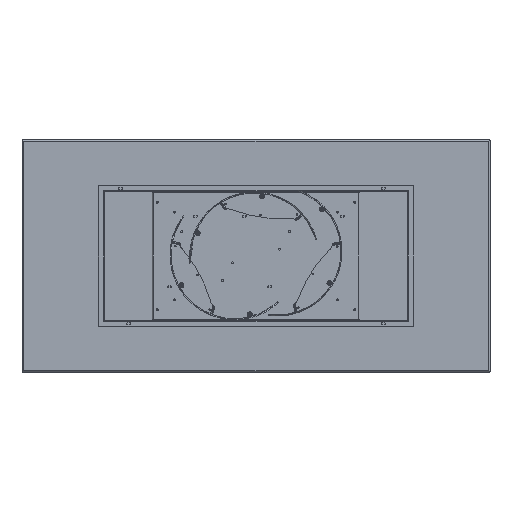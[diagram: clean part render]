
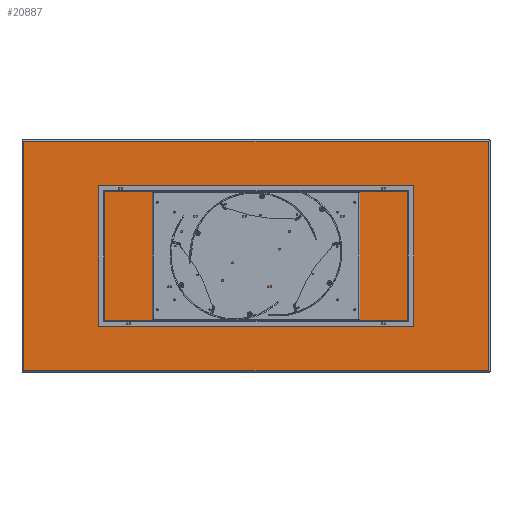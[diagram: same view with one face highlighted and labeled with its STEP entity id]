
A CAD part, front view. The second image highlights one B-rep face of the part: STEP entity #20887.
In plain terms, the highlighted planar face has unit normal (0, -1, 0).
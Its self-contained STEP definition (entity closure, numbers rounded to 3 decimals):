
#139 = VECTOR ( 'NONE', #18762, 1000. ) ;
#211 = CARTESIAN_POINT ( 'NONE',  ( -1187., 0., 0. ) ) ;
#350 = EDGE_CURVE ( 'NONE', #19318, #16008, #3215, .T. ) ;
#355 = EDGE_CURVE ( 'NONE', #6774, #21780, #11933, .T. ) ;
#1000 = LINE ( 'NONE', #2869, #1550 ) ;
#1181 = CARTESIAN_POINT ( 'NONE',  ( -1187., 0., 587. ) ) ;
#1550 = VECTOR ( 'NONE', #11261, 1000. ) ;
#1814 = ORIENTED_EDGE ( 'NONE', *, *, #350, .T. ) ;
#2575 = EDGE_LOOP ( 'NONE', ( #6540, #20786, #9720, #1814 ) ) ;
#2717 = CARTESIAN_POINT ( 'NONE',  ( 1187., 0., -587. ) ) ;
#2869 = CARTESIAN_POINT ( 'NONE',  ( 1187., 0., 0. ) ) ;
#3215 = LINE ( 'NONE', #10170, #6325 ) ;
#4744 = PLANE ( 'NONE',  #6608 ) ;
#6325 = VECTOR ( 'NONE', #15247, 1000. ) ;
#6384 = CARTESIAN_POINT ( 'NONE',  ( 1187., 0., 587. ) ) ;
#6540 = ORIENTED_EDGE ( 'NONE', *, *, #7721, .T. ) ;
#6608 = AXIS2_PLACEMENT_3D ( 'NONE', #8154, #11486, #7834 ) ;
#6774 = VERTEX_POINT ( 'NONE', #6384 ) ;
#7721 = EDGE_CURVE ( 'NONE', #16008, #6774, #1000, .T. ) ;
#7834 = DIRECTION ( 'NONE',  ( 0., 0., 1. ) ) ;
#8056 = EDGE_CURVE ( 'NONE', #21780, #19318, #17539, .T. ) ;
#8154 = CARTESIAN_POINT ( 'NONE',  ( 0., 0., 0. ) ) ;
#8604 = DIRECTION ( 'NONE',  ( -1., 0., 0. ) ) ;
#9720 = ORIENTED_EDGE ( 'NONE', *, *, #8056, .T. ) ;
#10170 = CARTESIAN_POINT ( 'NONE',  ( 0., 0., -587. ) ) ;
#11261 = DIRECTION ( 'NONE',  ( 0., 0., 1. ) ) ;
#11486 = DIRECTION ( 'NONE',  ( 0., 1., 0. ) ) ;
#11933 = LINE ( 'NONE', #18459, #18681 ) ;
#14719 = CARTESIAN_POINT ( 'NONE',  ( -1187., 0., -587. ) ) ;
#15247 = DIRECTION ( 'NONE',  ( 1., 0., 0. ) ) ;
#16008 = VERTEX_POINT ( 'NONE', #2717 ) ;
#17539 = LINE ( 'NONE', #211, #139 ) ;
#18459 = CARTESIAN_POINT ( 'NONE',  ( 0., 0., 587. ) ) ;
#18681 = VECTOR ( 'NONE', #8604, 1000. ) ;
#18762 = DIRECTION ( 'NONE',  ( 0., 0., -1. ) ) ;
#19318 = VERTEX_POINT ( 'NONE', #14719 ) ;
#19890 = FACE_OUTER_BOUND ( 'NONE', #2575, .T. ) ;
#20786 = ORIENTED_EDGE ( 'NONE', *, *, #355, .T. ) ;
#20887 = ADVANCED_FACE ( 'NONE', ( #19890 ), #4744, .F. ) ;
#21780 = VERTEX_POINT ( 'NONE', #1181 ) ;
